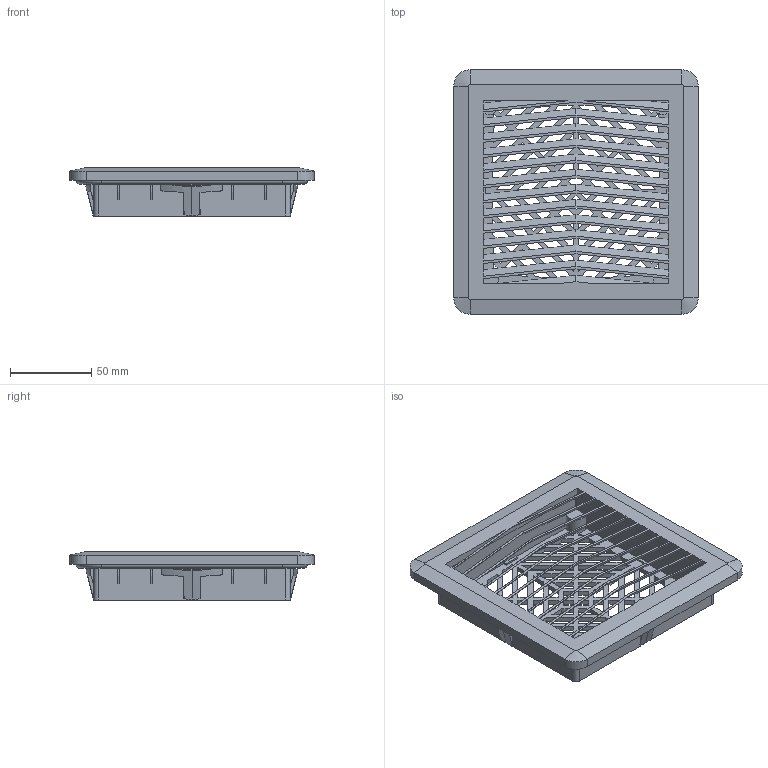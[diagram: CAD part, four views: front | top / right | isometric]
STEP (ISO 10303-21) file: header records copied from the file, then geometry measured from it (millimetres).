
FILE_DESCRIPTION (( 'STEP AP214' ), '1' );
FILE_NAME ('FF 12 Ðåøåòêà ñ ôèëüòðîì.STEP', '2018-08-23T13:06:50', ( '' ), ( '' ), 'SwSTEP 2.0', 'SolidWorks 2012', '' );
FILE_SCHEMA (( 'AUTOMOTIVE_DESIGN' ));
Length unit declared in the file: millimetre
Products named in the file (3): Çàùåëêà; Ðåøåòêà FF 12 áåç çàùåëîê; FF 12 Ðåøåòêà ñ ôèëüòðîì
Assembly tree (5 placements, depth 2):
  FF 12 Ðåøåòêà ñ ôèëüòðîì
    Ðåøåòêà FF 12 áåç çàùåëîê
    Çàùåëêà  x4
Bounding box: 150 x 150 x 29.5 mm (x, y, z)
Volume: 131532.2 mm3; surface area: 97513.1 mm2
Topology: 5 solids, 5 shells, 602 faces, 1718 edges, 1120 vertices
Faces by surface type: plane 539, cylinder 55, cone 4, torus 4
Entity records: 18406 total; most frequent: CARTESIAN_POINT 3227, ORIENTED_EDGE 3166, DIRECTION 2794, EDGE_CURVE 1583, VECTOR 1462, LINE 1462, VERTEX_POINT 1033, EDGE_LOOP 696
